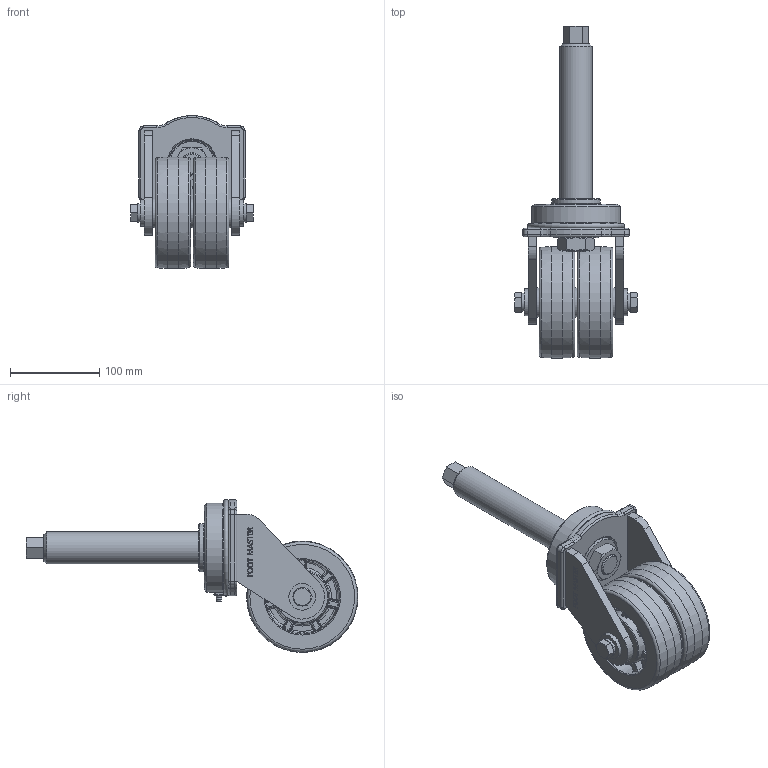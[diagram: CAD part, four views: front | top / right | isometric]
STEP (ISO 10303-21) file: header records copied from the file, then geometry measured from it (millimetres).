
FILE_DESCRIPTION(/* description */ (''),/* implementation_level */ '2;1');
FILE_NAME(/* name */ 'C:\Users\admin\Desktop\업무폴더\일자별 업무\2024\03월\03.08\홈페이지용 3D\3D\GXTT-125-ASS-HUD-PTR36x174L.stp',/* time_stamp */ '2024-03-13T11:19:06+09:00',/* author */ ('admin'),/* organization */ (''),/* preprocessor_version */ 'ST-DEVELOPER v18.1',/* originating_system */ 'Autodesk Inventor 2021',/* authorisation */ '');
FILE_SCHEMA (('CONFIG_CONTROL_DESIGN'));
Length unit declared in the file: millimetre
Products named in the file (1): GXTT-125-ASS-HUD-PTR36x174L_2
Bounding box: 138 x 372.5 x 171.75 mm (x, y, z)
Volume: 1499326.8 mm3; surface area: 209259.1 mm2
Topology: 1 solids, 1 shells, 1186 faces, 2833 edges, 1706 vertices
Faces by surface type: bspline 426, plane 402, cylinder 159, torus 149, cone 50
Full cylindrical faces by diameter (mm): 1 x1, 20.6 x2, 24 x1, 30 x2, 33 x3, 36 x2, 50 x1, 54 x2, 60 x1, 85 x1, 100 x1, 125 x2
Entity records: 45048 total; most frequent: CARTESIAN_POINT 19436, ORIENTED_EDGE 5666, DIRECTION 4830, EDGE_CURVE 2833, AXIS2_PLACEMENT_3D 1930, VERTEX_POINT 1706, EDGE_LOOP 1249, FACE_OUTER_BOUND 1186
